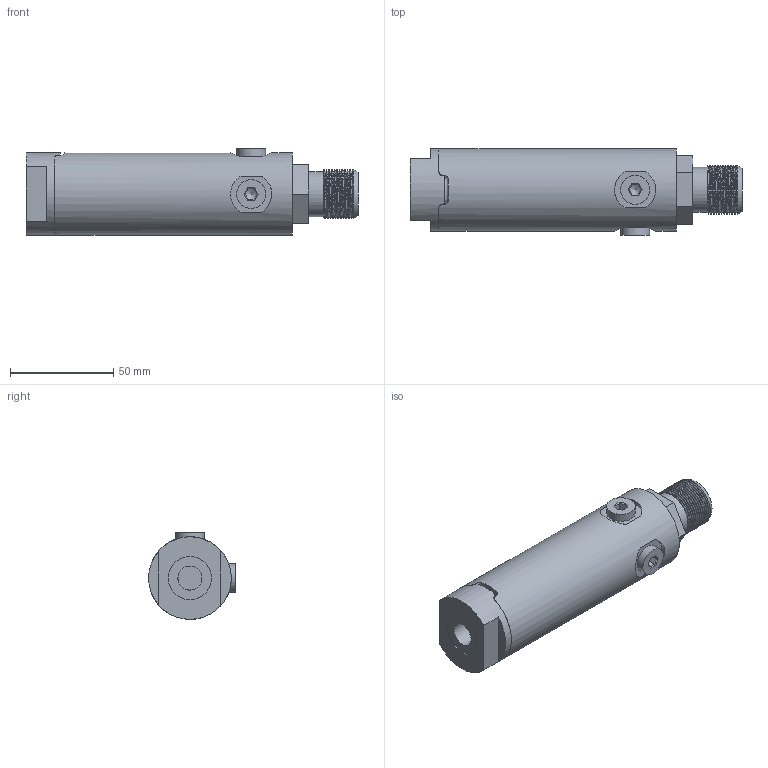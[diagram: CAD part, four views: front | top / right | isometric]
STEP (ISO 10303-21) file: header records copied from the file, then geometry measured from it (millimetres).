
FILE_DESCRIPTION(/* description */ ('Subsea Pressure Sensor RS232 (base assembly without sensor)'),/* implementation_level */ '2;1');
FILE_NAME(/* name */ '121508.step',/* time_stamp */ '2025-05-07T10:25:13+02:00',/* author */ (''),/* organization */ (''),/* preprocessor_version */ 'ST-DEVELOPER v20.1',/* originating_system */ 'Autodesk Translation Framework v14.4.0.0',/* authorisation */ '');
FILE_SCHEMA (('AUTOMOTIVE_DESIGN { 1 0 10303 214 3 1 1 }'));
Length unit declared in the file: millimetre
Products named in the file (5): 121508; 110193; 101835; 116040; 118503
Assembly tree (5 placements, depth 2):
  121508
    110193
    101835
    116040
    118503  x2
Bounding box: 160.75 x 42 x 42 mm (x, y, z)
Volume: 124275.8 mm3; surface area: 42795.3 mm2
Topology: 6 solids, 6 shells, 395 faces, 986 edges, 642 vertices
Faces by surface type: plane 152, bspline 92, cylinder 86, cone 39, torus 26
Full cylindrical faces by diameter (mm): 1.3 x8, 8.3 x2, 8.707 x2, 9.73 x12, 11.619 x1, 11.668 x2, 12 x2, 14 x2, 14.453 x1, 15.763 x1, 18.868 x1, 19 x1, 21 x1, 21.812 x1, 22.301 x10, 23.711 x11, 26 x1, 26.2 x1, 27.4 x2, 30 x4, 31 x2, 40 x2
Entity records: 14485 total; most frequent: CARTESIAN_POINT 6347, ORIENTED_EDGE 1746, DIRECTION 1357, EDGE_CURVE 873, VERTEX_POINT 574, AXIS2_PLACEMENT_3D 471, LINE 415, VECTOR 415
